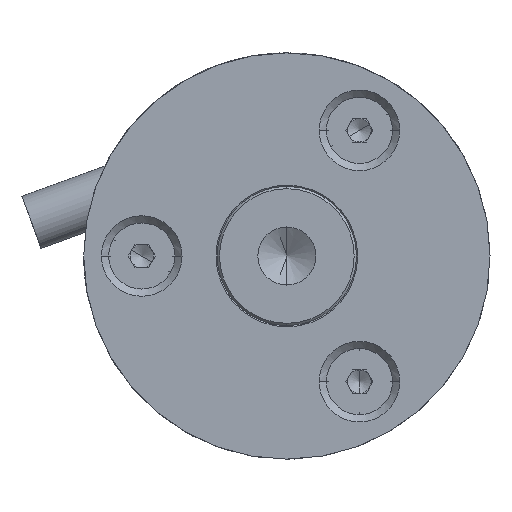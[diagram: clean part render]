
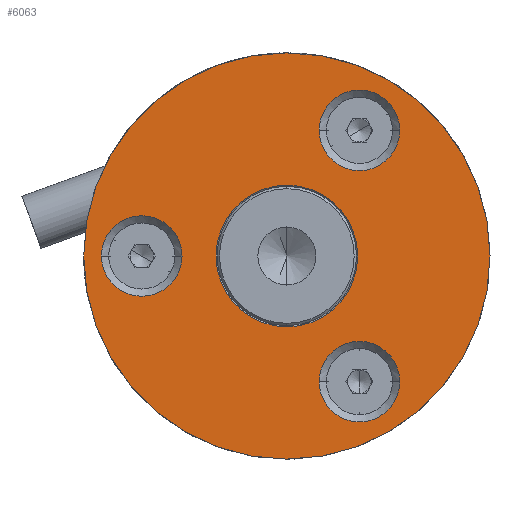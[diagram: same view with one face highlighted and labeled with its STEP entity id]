
A CAD part, front view. The second image highlights one B-rep face of the part: STEP entity #6063.
In plain terms, the highlighted planar face has unit normal (0, -1, 0).
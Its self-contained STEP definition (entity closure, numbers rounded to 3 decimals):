
#120 = CARTESIAN_POINT ( 'NONE',  ( 10.825, 0., -9.72 ) ) ;
#155 = AXIS2_PLACEMENT_3D ( 'NONE', #3311, #5098, #6790 ) ;
#569 = CARTESIAN_POINT ( 'NONE',  ( -10.825, 0., -9.72 ) ) ;
#613 = CIRCLE ( 'NONE', #5766, 17.5 ) ;
#908 = CARTESIAN_POINT ( 'NONE',  ( 10.825, 0., -2.78 ) ) ;
#1026 = CIRCLE ( 'NONE', #2791, 17.5 ) ;
#1036 = EDGE_CURVE ( 'NONE', #8647, #1582, #7943, .T. ) ;
#1041 = FACE_OUTER_BOUND ( 'NONE', #8650, .T. ) ;
#1093 = DIRECTION ( 'NONE',  ( 0., 0., -1. ) ) ;
#1182 = CARTESIAN_POINT ( 'NONE',  ( 0., 0., 9.03 ) ) ;
#1268 = DIRECTION ( 'NONE',  ( 0., -1., 0. ) ) ;
#1471 = VERTEX_POINT ( 'NONE', #908 ) ;
#1509 = EDGE_LOOP ( 'NONE', ( #9993, #8906 ) ) ;
#1582 = VERTEX_POINT ( 'NONE', #1182 ) ;
#1588 = CARTESIAN_POINT ( 'NONE',  ( 0., 0., 0. ) ) ;
#1624 = EDGE_LOOP ( 'NONE', ( #2548, #7535 ) ) ;
#1901 = EDGE_LOOP ( 'NONE', ( #2854, #7223 ) ) ;
#1958 = DIRECTION ( 'NONE',  ( 0., 0., 1. ) ) ;
#1990 = EDGE_CURVE ( 'NONE', #4805, #4857, #7181, .T. ) ;
#2118 = AXIS2_PLACEMENT_3D ( 'NONE', #6432, #5714, #10786 ) ;
#2441 = ORIENTED_EDGE ( 'NONE', *, *, #4708, .F. ) ;
#2478 = DIRECTION ( 'NONE',  ( 0., 0., -1. ) ) ;
#2548 = ORIENTED_EDGE ( 'NONE', *, *, #10992, .F. ) ;
#2601 = AXIS2_PLACEMENT_3D ( 'NONE', #11173, #3346, #8604 ) ;
#2738 = CIRCLE ( 'NONE', #7074, 3.47 ) ;
#2791 = AXIS2_PLACEMENT_3D ( 'NONE', #8848, #4498, #3614 ) ;
#2854 = ORIENTED_EDGE ( 'NONE', *, *, #6384, .F. ) ;
#2921 = EDGE_CURVE ( 'NONE', #10105, #11126, #7833, .T. ) ;
#2938 = CIRCLE ( 'NONE', #8505, 3.47 ) ;
#3037 = CARTESIAN_POINT ( 'NONE',  ( -10.825, 0., -2.78 ) ) ;
#3311 = CARTESIAN_POINT ( 'NONE',  ( 0., 0., 12.5 ) ) ;
#3346 = DIRECTION ( 'NONE',  ( 0., 1., 0. ) ) ;
#3355 = EDGE_CURVE ( 'NONE', #1582, #8647, #9198, .T. ) ;
#3395 = EDGE_CURVE ( 'NONE', #4857, #4805, #3574, .T. ) ;
#3413 = CARTESIAN_POINT ( 'NONE',  ( 0., 0., -6.1 ) ) ;
#3429 = DIRECTION ( 'NONE',  ( 0., -1., 0. ) ) ;
#3574 = CIRCLE ( 'NONE', #6100, 6.1 ) ;
#3614 = DIRECTION ( 'NONE',  ( 0., 0., 1. ) ) ;
#3617 = CARTESIAN_POINT ( 'NONE',  ( 0., 0., -17.5 ) ) ;
#3761 = DIRECTION ( 'NONE',  ( 0., -1., 0. ) ) ;
#3763 = AXIS2_PLACEMENT_3D ( 'NONE', #9726, #5382, #1093 ) ;
#3918 = DIRECTION ( 'NONE',  ( 0., 0., -1. ) ) ;
#3948 = CARTESIAN_POINT ( 'NONE',  ( 10.825, 0., -6.25 ) ) ;
#4062 = EDGE_CURVE ( 'NONE', #7259, #8082, #613, .T. ) ;
#4327 = CARTESIAN_POINT ( 'NONE',  ( 0., 0., 6.1 ) ) ;
#4498 = DIRECTION ( 'NONE',  ( 0., 1., 0. ) ) ;
#4708 = EDGE_CURVE ( 'NONE', #8082, #7259, #1026, .T. ) ;
#4805 = VERTEX_POINT ( 'NONE', #4327 ) ;
#4857 = VERTEX_POINT ( 'NONE', #3413 ) ;
#5098 = DIRECTION ( 'NONE',  ( 0., -1., 0. ) ) ;
#5382 = DIRECTION ( 'NONE',  ( 0., -1., 0. ) ) ;
#5714 = DIRECTION ( 'NONE',  ( 0., -1., 0. ) ) ;
#5766 = AXIS2_PLACEMENT_3D ( 'NONE', #6232, #8866, #1958 ) ;
#6063 = ADVANCED_FACE ( 'NONE', ( #10757, #11032, #9252, #10902, #1041 ), #6828, .F. ) ;
#6100 = AXIS2_PLACEMENT_3D ( 'NONE', #6864, #3429, #8522 ) ;
#6232 = CARTESIAN_POINT ( 'NONE',  ( 0., 0., 0. ) ) ;
#6298 = VERTEX_POINT ( 'NONE', #120 ) ;
#6384 = EDGE_CURVE ( 'NONE', #11126, #10105, #7741, .T. ) ;
#6432 = CARTESIAN_POINT ( 'NONE',  ( 0., 0., 12.5 ) ) ;
#6604 = CARTESIAN_POINT ( 'NONE',  ( 10.825, 0., -6.25 ) ) ;
#6790 = DIRECTION ( 'NONE',  ( 0., 0., -1. ) ) ;
#6828 = PLANE ( 'NONE',  #2601 ) ;
#6864 = CARTESIAN_POINT ( 'NONE',  ( 0., 0., 0. ) ) ;
#6908 = DIRECTION ( 'NONE',  ( 0., -1., 0. ) ) ;
#7021 = CARTESIAN_POINT ( 'NONE',  ( -10.825, 0., -6.25 ) ) ;
#7074 = AXIS2_PLACEMENT_3D ( 'NONE', #3948, #10056, #10939 ) ;
#7127 = DIRECTION ( 'NONE',  ( 0., 0., -1. ) ) ;
#7181 = CIRCLE ( 'NONE', #8484, 6.1 ) ;
#7223 = ORIENTED_EDGE ( 'NONE', *, *, #2921, .F. ) ;
#7259 = VERTEX_POINT ( 'NONE', #3617 ) ;
#7535 = ORIENTED_EDGE ( 'NONE', *, *, #8818, .F. ) ;
#7643 = ORIENTED_EDGE ( 'NONE', *, *, #1990, .F. ) ;
#7741 = CIRCLE ( 'NONE', #3763, 3.47 ) ;
#7833 = CIRCLE ( 'NONE', #8805, 3.47 ) ;
#7943 = CIRCLE ( 'NONE', #2118, 3.47 ) ;
#8082 = VERTEX_POINT ( 'NONE', #9058 ) ;
#8268 = CARTESIAN_POINT ( 'NONE',  ( 0., 0., 15.97 ) ) ;
#8484 = AXIS2_PLACEMENT_3D ( 'NONE', #1588, #6908, #2478 ) ;
#8505 = AXIS2_PLACEMENT_3D ( 'NONE', #6604, #1268, #3918 ) ;
#8522 = DIRECTION ( 'NONE',  ( 0., 0., -1. ) ) ;
#8604 = DIRECTION ( 'NONE',  ( 0., 0., 1. ) ) ;
#8647 = VERTEX_POINT ( 'NONE', #8268 ) ;
#8650 = EDGE_LOOP ( 'NONE', ( #9273, #2441 ) ) ;
#8667 = ORIENTED_EDGE ( 'NONE', *, *, #3395, .F. ) ;
#8805 = AXIS2_PLACEMENT_3D ( 'NONE', #7021, #3761, #7127 ) ;
#8818 = EDGE_CURVE ( 'NONE', #1471, #6298, #2738, .T. ) ;
#8848 = CARTESIAN_POINT ( 'NONE',  ( 0., 0., 0. ) ) ;
#8866 = DIRECTION ( 'NONE',  ( 0., 1., 0. ) ) ;
#8906 = ORIENTED_EDGE ( 'NONE', *, *, #1036, .F. ) ;
#9058 = CARTESIAN_POINT ( 'NONE',  ( 0., 0., 17.5 ) ) ;
#9198 = CIRCLE ( 'NONE', #155, 3.47 ) ;
#9252 = FACE_BOUND ( 'NONE', #1901, .T. ) ;
#9273 = ORIENTED_EDGE ( 'NONE', *, *, #4062, .F. ) ;
#9726 = CARTESIAN_POINT ( 'NONE',  ( -10.825, 0., -6.25 ) ) ;
#9993 = ORIENTED_EDGE ( 'NONE', *, *, #3355, .F. ) ;
#10056 = DIRECTION ( 'NONE',  ( 0., -1., 0. ) ) ;
#10105 = VERTEX_POINT ( 'NONE', #3037 ) ;
#10507 = EDGE_LOOP ( 'NONE', ( #8667, #7643 ) ) ;
#10757 = FACE_BOUND ( 'NONE', #10507, .T. ) ;
#10786 = DIRECTION ( 'NONE',  ( 0., 0., -1. ) ) ;
#10902 = FACE_BOUND ( 'NONE', #1624, .T. ) ;
#10939 = DIRECTION ( 'NONE',  ( 0., 0., -1. ) ) ;
#10992 = EDGE_CURVE ( 'NONE', #6298, #1471, #2938, .T. ) ;
#11032 = FACE_BOUND ( 'NONE', #1509, .T. ) ;
#11126 = VERTEX_POINT ( 'NONE', #569 ) ;
#11173 = CARTESIAN_POINT ( 'NONE',  ( 0., 0., 0. ) ) ;
